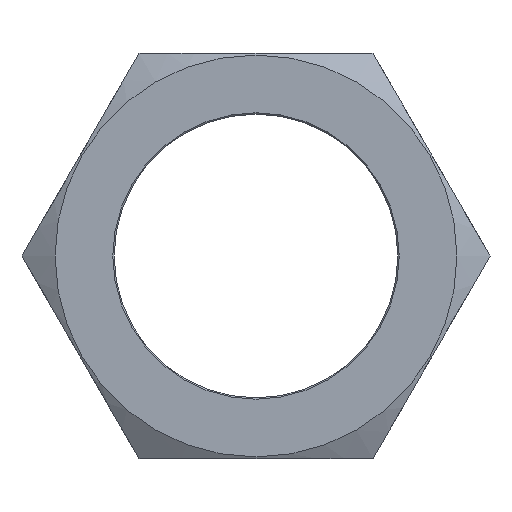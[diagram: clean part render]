
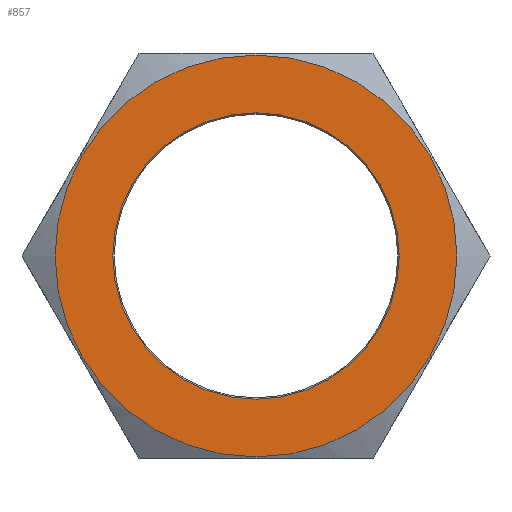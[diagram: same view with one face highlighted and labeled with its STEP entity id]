
A CAD part, left-side view. The second image highlights one B-rep face of the part: STEP entity #857.
In plain terms, the highlighted planar face has unit normal (-1, 0, 0) as drawn and (0, 0, 1) by its records, which use the part's own axes.
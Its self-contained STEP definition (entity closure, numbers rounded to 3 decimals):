
#141=CARTESIAN_POINT('',(29.75,0.0,12.25));
#142=VERTEX_POINT('',#141);
#151=CARTESIAN_POINT('',(-29.75,0.,12.25));
#152=VERTEX_POINT('',#151);
#153=CARTESIAN_POINT('',(0.,0.0,12.25));
#154=DIRECTION('',(0.0,0.0,1.0));
#155=DIRECTION('',(1.0,0.0,0.0));
#156=AXIS2_PLACEMENT_3D('',#153,#154,#155);
#157=CIRCLE('',#156,29.75);
#158=EDGE_CURVE('',#152,#142,#157,.T.);
#471=CARTESIAN_POINT('',(0.,21.2,12.25));
#472=VERTEX_POINT('',#471);
#480=CARTESIAN_POINT('',(0.,-21.2,12.25));
#481=VERTEX_POINT('',#480);
#488=CARTESIAN_POINT('',(0.,0.,12.25));
#489=DIRECTION('',(0.0,0.0,-1.0));
#490=DIRECTION('',(0.0,1.0,0.0));
#491=AXIS2_PLACEMENT_3D('',#488,#489,#490);
#492=CIRCLE('',#491,21.2);
#493=EDGE_CURVE('',#472,#481,#492,.T.);
#504=CARTESIAN_POINT('',(0.,0.,12.25));
#505=DIRECTION('',(0.0,0.0,-1.0));
#506=DIRECTION('',(0.0,1.0,0.0));
#507=AXIS2_PLACEMENT_3D('',#504,#505,#506);
#508=CIRCLE('',#507,21.2);
#509=EDGE_CURVE('',#481,#472,#508,.T.);
#728=CARTESIAN_POINT('',(0.,0.0,12.25));
#729=DIRECTION('',(0.0,0.0,1.0));
#730=DIRECTION('',(1.0,0.0,0.0));
#731=AXIS2_PLACEMENT_3D('',#728,#729,#730);
#732=CIRCLE('',#731,29.75);
#733=EDGE_CURVE('',#142,#152,#732,.T.);
#844=CARTESIAN_POINT('',(0.0,0.,12.25));
#845=DIRECTION('',(0.0,0.0,1.0));
#846=DIRECTION('',(1.0,0.0,0.0));
#847=AXIS2_PLACEMENT_3D('',#844,#845,#846);
#848=PLANE('',#847);
#849=ORIENTED_EDGE('',*,*,#733,.T.);
#850=ORIENTED_EDGE('',*,*,#158,.T.);
#851=EDGE_LOOP('',(#849,#850));
#852=FACE_OUTER_BOUND('',#851,.T.);
#853=ORIENTED_EDGE('',*,*,#493,.T.);
#854=ORIENTED_EDGE('',*,*,#509,.T.);
#855=EDGE_LOOP('',(#853,#854));
#856=FACE_BOUND('',#855,.T.);
#857=ADVANCED_FACE('',(#852,#856),#848,.T.);
